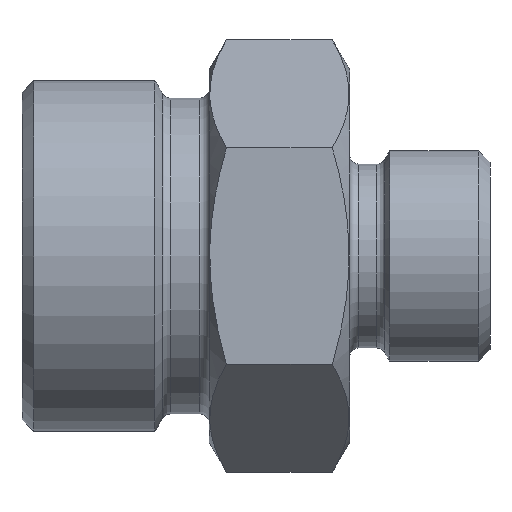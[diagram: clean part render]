
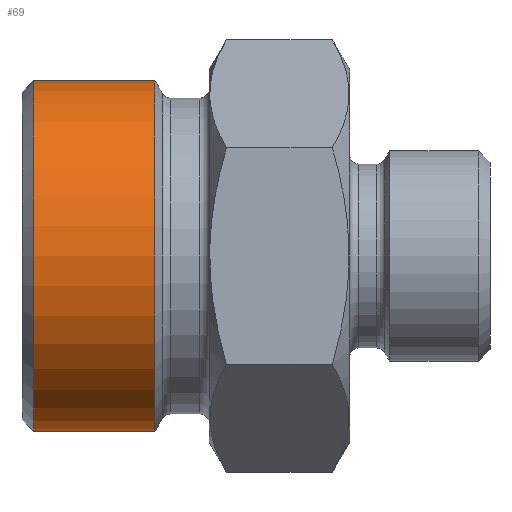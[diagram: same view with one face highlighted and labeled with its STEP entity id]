
A CAD part, front view. The second image highlights one B-rep face of the part: STEP entity #69.
In plain terms, the highlighted cylindrical face has radius 15 mm (diameter 30 mm), a full revolution.
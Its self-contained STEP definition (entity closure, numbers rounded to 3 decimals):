
#69 = ADVANCED_FACE( '', ( #163, #164 ), #165, .T. );
#163 = FACE_OUTER_BOUND( '', #296, .T. );
#164 = FACE_OUTER_BOUND( '', #297, .T. );
#165 = CYLINDRICAL_SURFACE( '', #298, 15. );
#296 = EDGE_LOOP( '', ( #438 ) );
#297 = EDGE_LOOP( '', ( #439 ) );
#298 = AXIS2_PLACEMENT_3D( '', #440, #441, #442 );
#438 = ORIENTED_EDGE( '', *, *, #639, .T. );
#439 = ORIENTED_EDGE( '', *, *, #640, .T. );
#440 = CARTESIAN_POINT( '', ( -60., 0., 0. ) );
#441 = DIRECTION( '', ( 1., 0., 0. ) );
#442 = DIRECTION( '', ( 0., 0., 1. ) );
#639 = EDGE_CURVE( '', #729, #729, #730, .F. );
#640 = EDGE_CURVE( '', #731, #731, #732, .T. );
#729 = VERTEX_POINT( '', #868 );
#730 = CIRCLE( '', #869, 15. );
#731 = VERTEX_POINT( '', #870 );
#732 = CIRCLE( '', #871, 15. );
#868 = CARTESIAN_POINT( '', ( -19., 0., 15. ) );
#869 = AXIS2_PLACEMENT_3D( '', #1101, #1102, #1103 );
#870 = CARTESIAN_POINT( '', ( -8.635, 0., 15. ) );
#871 = AXIS2_PLACEMENT_3D( '', #1104, #1105, #1106 );
#1101 = CARTESIAN_POINT( '', ( -19., 0., 0. ) );
#1102 = DIRECTION( '', ( -1., 0., 0. ) );
#1103 = DIRECTION( '', ( 0., 0., 1. ) );
#1104 = CARTESIAN_POINT( '', ( -8.635, 0., 0. ) );
#1105 = DIRECTION( '', ( -1., 0., 0. ) );
#1106 = DIRECTION( '', ( 0., 0., 1. ) );
